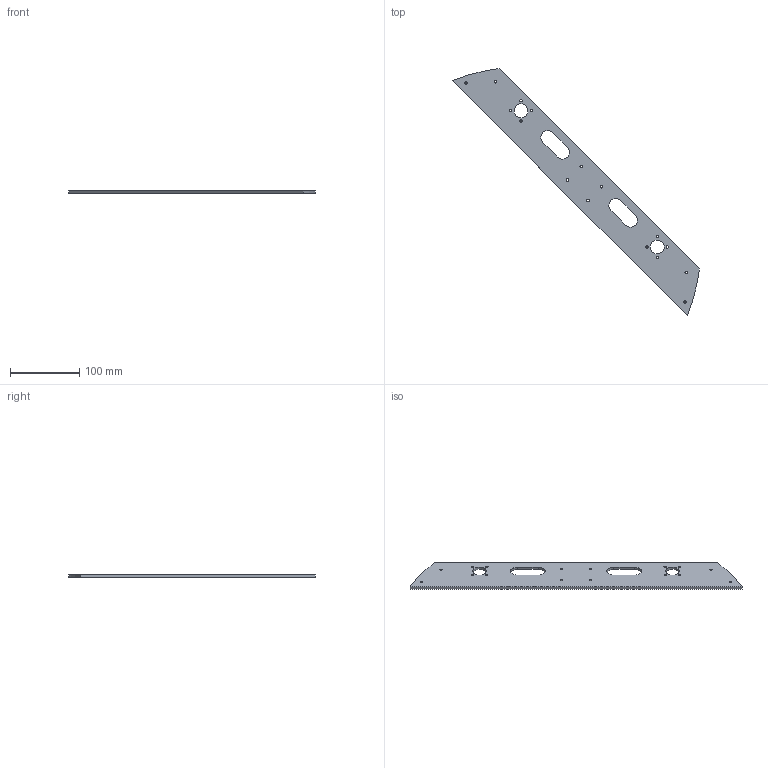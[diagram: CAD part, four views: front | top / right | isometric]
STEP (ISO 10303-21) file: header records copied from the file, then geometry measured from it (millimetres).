
FILE_DESCRIPTION(('STEP AP214'), '1');
FILE_NAME('Middle_Lvl_Plane', '', ('UNSPECIFIED'), ('UNSPECIFIED'), 'C3D Converter', 'C3D Toolkit', '');
FILE_SCHEMA(('AUTOMOTIVE_DESIGN { 1 0 10303 214 3 1 1}'));
Length unit declared in the file: millimetre
Bounding box: 357.05 x 357.05 x 4 mm (x, y, z)
Volume: 97259.8 mm3; surface area: 54905.9 mm2
Topology: 1 solids, 1 shells, 32 faces, 90 edges, 60 vertices
Faces by surface type: cylinder 24, plane 8
Full cylindrical faces by diameter (mm): 3.3 x8, 3.4 x8, 20 x2
Entity records: 1094 total; most frequent: DIRECTION 186, CARTESIAN_POINT 165, ORIENTED_EDGE 144, EDGE_LOOP 90, AXIS2_PLACEMENT_3D 81, EDGE_CURVE 72, VERTEX_POINT 60, FACE_BOUND 54
